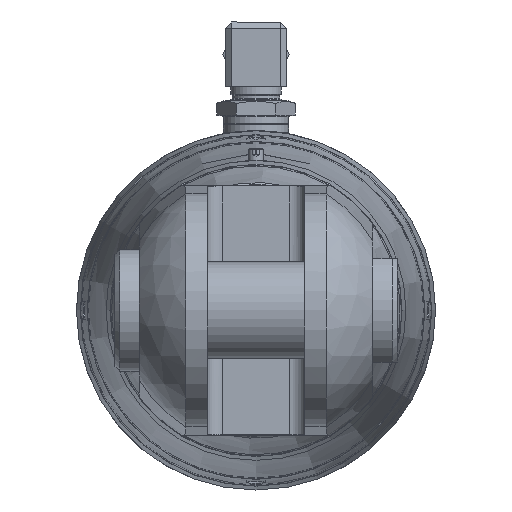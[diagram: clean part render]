
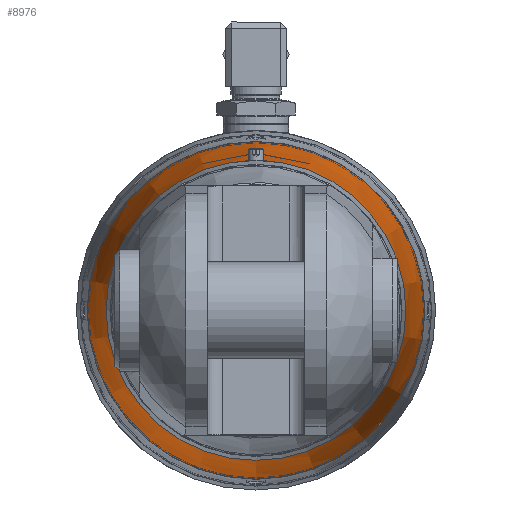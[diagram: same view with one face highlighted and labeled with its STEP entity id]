
A CAD part, left-side view. The second image highlights one B-rep face of the part: STEP entity #8976.
In plain terms, the highlighted conical face has half-angle 5 degrees and reference radius 52.078 mm.
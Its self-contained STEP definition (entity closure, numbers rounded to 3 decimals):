
#109=CONICAL_SURFACE('',#9804,52.078,0.087);
#695=LINE('',#15548,#1276);
#1276=VECTOR('',#11772,52.078);
#2294=FACE_BOUND('',#3198,.T.);
#2665=FACE_OUTER_BOUND('',#3197,.T.);
#3197=EDGE_LOOP('',(#7671,#7672,#7673,#7674,#7675,#7676));
#3198=EDGE_LOOP('',(#7677,#7678));
#3672=CIRCLE('',#9805,55.113);
#3673=CIRCLE('',#9806,55.113);
#3674=CIRCLE('',#9807,49.);
#3675=CIRCLE('',#9808,49.);
#3836=B_SPLINE_CURVE_WITH_KNOTS('',3,(#13112,#13113,#13114,#13115,#13116,
#13117,#13118,#13119,#13120,#13121,#13122,#13123,#13124,#13125,#13126,#13127,
#13128,#13129,#13130,#13131,#13132,#13133,#13134),.UNSPECIFIED.,.F.,.F.,
(4,2,2,2,2,2,2,2,2,3,4),(-0.707,-0.642,-0.563,
-0.484,-0.403,-0.321,-0.239,
-0.158,-0.079,0.,0.065),
 .UNSPECIFIED.);
#3837=B_SPLINE_CURVE_WITH_KNOTS('',3,(#13204,#13205,#13206,#13207,#13208,
#13209,#13210,#13211,#13212,#13213,#13214,#13215,#13216,#13217,#13218,#13219,
#13220,#13221),.UNSPECIFIED.,.F.,.F.,(4,2,2,2,2,2,2,2,4),(0.678,
0.712,0.791,0.871,0.95,1.03,
1.109,1.189,1.222),.UNSPECIFIED.);
#3959=VERTEX_POINT('',#13110);
#3960=VERTEX_POINT('',#13111);
#4428=VERTEX_POINT('',#15543);
#4429=VERTEX_POINT('',#15544);
#4430=VERTEX_POINT('',#15547);
#4431=VERTEX_POINT('',#15549);
#4832=EDGE_CURVE('',#3959,#3960,#3836,.T.);
#4867=EDGE_CURVE('',#3960,#3959,#3837,.T.);
#5560=EDGE_CURVE('',#4428,#4429,#3672,.T.);
#5561=EDGE_CURVE('',#4429,#4428,#3673,.T.);
#5562=EDGE_CURVE('',#4429,#4430,#695,.T.);
#5563=EDGE_CURVE('',#4431,#4430,#3674,.T.);
#5564=EDGE_CURVE('',#4430,#4431,#3675,.T.);
#7671=ORIENTED_EDGE('',*,*,#5560,.F.);
#7672=ORIENTED_EDGE('',*,*,#5561,.F.);
#7673=ORIENTED_EDGE('',*,*,#5562,.T.);
#7674=ORIENTED_EDGE('',*,*,#5563,.F.);
#7675=ORIENTED_EDGE('',*,*,#5564,.F.);
#7676=ORIENTED_EDGE('',*,*,#5562,.F.);
#7677=ORIENTED_EDGE('',*,*,#4832,.T.);
#7678=ORIENTED_EDGE('',*,*,#4867,.T.);
#8976=ADVANCED_FACE('',(#2665,#2294),#109,.T.);
#9804=AXIS2_PLACEMENT_3D('',#15542,#11766,#11767);
#9805=AXIS2_PLACEMENT_3D('',#15545,#11768,#11769);
#9806=AXIS2_PLACEMENT_3D('',#15546,#11770,#11771);
#9807=AXIS2_PLACEMENT_3D('',#15550,#11773,#11774);
#9808=AXIS2_PLACEMENT_3D('',#15551,#11775,#11776);
#11766=DIRECTION('center_axis',(1.,0.,0.));
#11767=DIRECTION('ref_axis',(0.,0.,
1.));
#11768=DIRECTION('center_axis',(1.,0.,0.));
#11769=DIRECTION('ref_axis',(0.,0.,
-1.));
#11770=DIRECTION('center_axis',(1.,0.,0.));
#11771=DIRECTION('ref_axis',(0.,0.,
-1.));
#11772=DIRECTION('',(-0.996,0.,0.087));
#11773=DIRECTION('center_axis',(-1.,0.,0.));
#11774=DIRECTION('ref_axis',(0.,0.,
-1.));
#11775=DIRECTION('center_axis',(-1.,0.,0.));
#11776=DIRECTION('ref_axis',(0.,0.,
-1.));
#13110=CARTESIAN_POINT('',(-600.039,-2.049,51.));
#13111=CARTESIAN_POINT('',(-600.039,2.049,51.));
#13112=CARTESIAN_POINT('Ctrl Pts',(-600.039,-2.049,
51.));
#13113=CARTESIAN_POINT('Ctrl Pts',(-600.255,-2.12,50.978));
#13114=CARTESIAN_POINT('Ctrl Pts',(-600.481,-2.154,
50.957));
#13115=CARTESIAN_POINT('Ctrl Pts',(-600.959,-2.152,
50.915));
#13116=CARTESIAN_POINT('Ctrl Pts',(-601.238,-2.098,50.893));
#13117=CARTESIAN_POINT('Ctrl Pts',(-601.751,-1.883,
50.857));
#13118=CARTESIAN_POINT('Ctrl Pts',(-601.985,-1.721,
50.842));
#13119=CARTESIAN_POINT('Ctrl Pts',(-602.362,-1.342,
50.82));
#13120=CARTESIAN_POINT('Ctrl Pts',(-602.528,-1.098,
50.812));
#13121=CARTESIAN_POINT('Ctrl Pts',(-602.747,-0.563,
50.802));
#13122=CARTESIAN_POINT('Ctrl Pts',(-602.8,-0.272,
50.8));
#13123=CARTESIAN_POINT('Ctrl Pts',(-602.8,0.272,
50.8));
#13124=CARTESIAN_POINT('Ctrl Pts',(-602.747,0.563,
50.802));
#13125=CARTESIAN_POINT('Ctrl Pts',(-602.528,1.098,50.812));
#13126=CARTESIAN_POINT('Ctrl Pts',(-602.362,1.342,50.82));
#13127=CARTESIAN_POINT('Ctrl Pts',(-601.985,1.721,50.842));
#13128=CARTESIAN_POINT('Ctrl Pts',(-601.751,1.883,50.857));
#13129=CARTESIAN_POINT('Ctrl Pts',(-601.238,2.098,50.893));
#13130=CARTESIAN_POINT('Ctrl Pts',(-600.959,2.152,50.915));
#13131=CARTESIAN_POINT('Ctrl Pts',(-600.697,2.153,50.938));
#13132=CARTESIAN_POINT('Ctrl Pts',(-600.481,2.154,50.957));
#13133=CARTESIAN_POINT('Ctrl Pts',(-600.255,2.12,50.978));
#13134=CARTESIAN_POINT('Ctrl Pts',(-600.039,2.049,51.));
#13204=CARTESIAN_POINT('Ctrl Pts',(-600.039,2.049,51.));
#13205=CARTESIAN_POINT('Ctrl Pts',(-599.924,2.023,51.011));
#13206=CARTESIAN_POINT('Ctrl Pts',(-599.811,1.987,51.022));
#13207=CARTESIAN_POINT('Ctrl Pts',(-599.442,1.836,51.06));
#13208=CARTESIAN_POINT('Ctrl Pts',(-599.205,1.674,51.087));
#13209=CARTESIAN_POINT('Ctrl Pts',(-598.831,1.301,51.131));
#13210=CARTESIAN_POINT('Ctrl Pts',(-598.669,1.065,51.151));
#13211=CARTESIAN_POINT('Ctrl Pts',(-598.453,0.547,
51.178));
#13212=CARTESIAN_POINT('Ctrl Pts',(-598.4,0.265,51.185));
#13213=CARTESIAN_POINT('Ctrl Pts',(-598.4,-0.265,51.185));
#13214=CARTESIAN_POINT('Ctrl Pts',(-598.453,-0.547,
51.178));
#13215=CARTESIAN_POINT('Ctrl Pts',(-598.669,-1.065,
51.151));
#13216=CARTESIAN_POINT('Ctrl Pts',(-598.831,-1.301,
51.131));
#13217=CARTESIAN_POINT('Ctrl Pts',(-599.205,-1.674,
51.087));
#13218=CARTESIAN_POINT('Ctrl Pts',(-599.442,-1.836,
51.06));
#13219=CARTESIAN_POINT('Ctrl Pts',(-599.811,-1.987,
51.022));
#13220=CARTESIAN_POINT('Ctrl Pts',(-599.924,-2.023,
51.011));
#13221=CARTESIAN_POINT('Ctrl Pts',(-600.039,-2.049,
51.));
#15542=CARTESIAN_POINT('Origin',(-588.185,0.,
0.));
#15543=CARTESIAN_POINT('',(-553.498,0.,55.113));
#15544=CARTESIAN_POINT('',(-553.498,0.,-55.113));
#15545=CARTESIAN_POINT('Origin',(-553.498,0.,
0.));
#15546=CARTESIAN_POINT('Origin',(-553.498,0.,
0.));
#15547=CARTESIAN_POINT('',(-623.369,0.,-49.));
#15548=CARTESIAN_POINT('',(-588.185,0.,-52.078));
#15549=CARTESIAN_POINT('',(-623.369,0.,49.));
#15550=CARTESIAN_POINT('Origin',(-623.369,0.,
0.));
#15551=CARTESIAN_POINT('Origin',(-623.369,0.,
0.));
